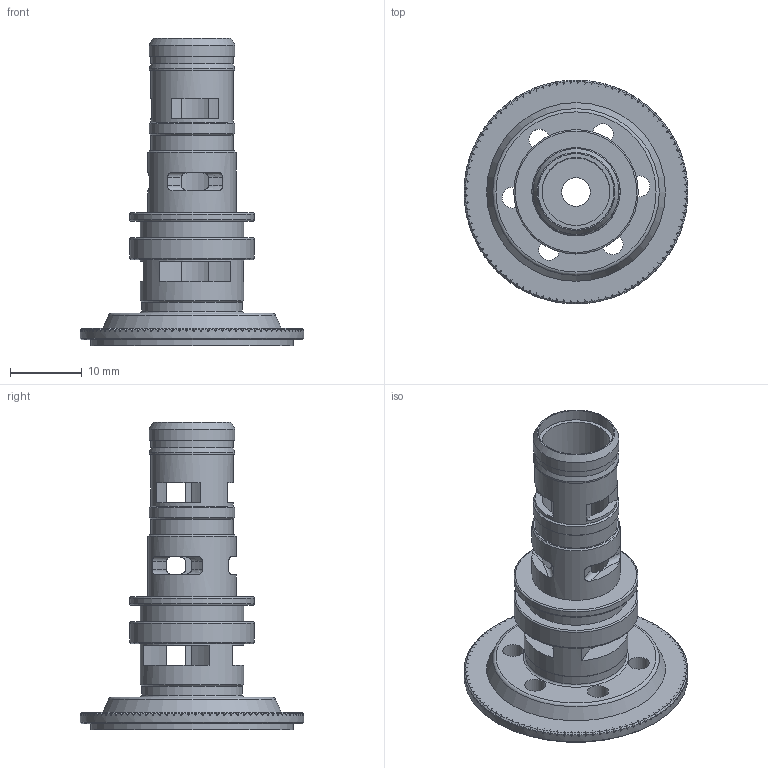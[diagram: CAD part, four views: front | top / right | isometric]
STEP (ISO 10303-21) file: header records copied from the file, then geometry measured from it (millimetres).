
FILE_DESCRIPTION(/* description */ (''),/* implementation_level */ '2;1');
FILE_NAME(/* name */ 'S0182阀体.stp',/* time_stamp */ '2026-08-13T14:24:06+08:00',/* author */ (''),/* organization */ (''),/* preprocessor_version */ 'ST-DEVELOPER v16',/* originating_system */ 'SIEMENS PLM Software NX 10.0',/* authorisation */ '');
FILE_SCHEMA (('AUTOMOTIVE_DESIGN { 1 0 10303 214 3 1 1 1 }'));
Length unit declared in the file: millimetre
Products named in the file (1): Admi16F04FB7kx3o
Bounding box: 31.3 x 31.3 x 43 mm (x, y, z)
Volume: 4118 mm3; surface area: 5182 mm2
Topology: 1 solids, 1 shells, 394 faces, 1133 edges, 756 vertices
Faces by surface type: plane 229, cone 107, cylinder 43, torus 15
Full cylindrical faces by diameter (mm): 2.9 x6, 4 x1, 6.3 x1, 9.5 x1, 10.6 x1, 11.5 x3, 12 x3, 12.35 x1, 14.1 x1, 14.5 x2, 17.4 x2, 21.5 x1, 28.4 x1, 31.3 x1
Entity records: 13297 total; most frequent: CARTESIAN_POINT 3063, DIRECTION 2175, ORIENTED_EDGE 2138, EDGE_CURVE 1069, AXIS2_PLACEMENT_3D 924, VERTEX_POINT 734, EDGE_LOOP 483, ADVANCED_FACE 394
